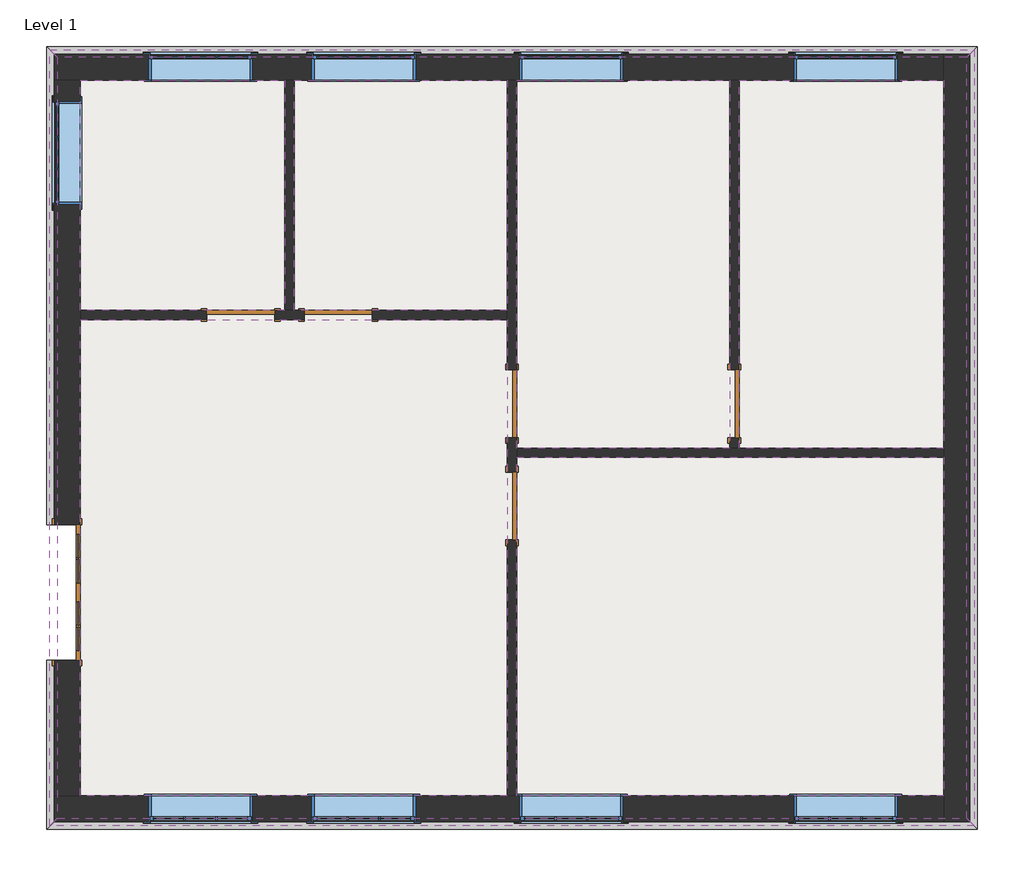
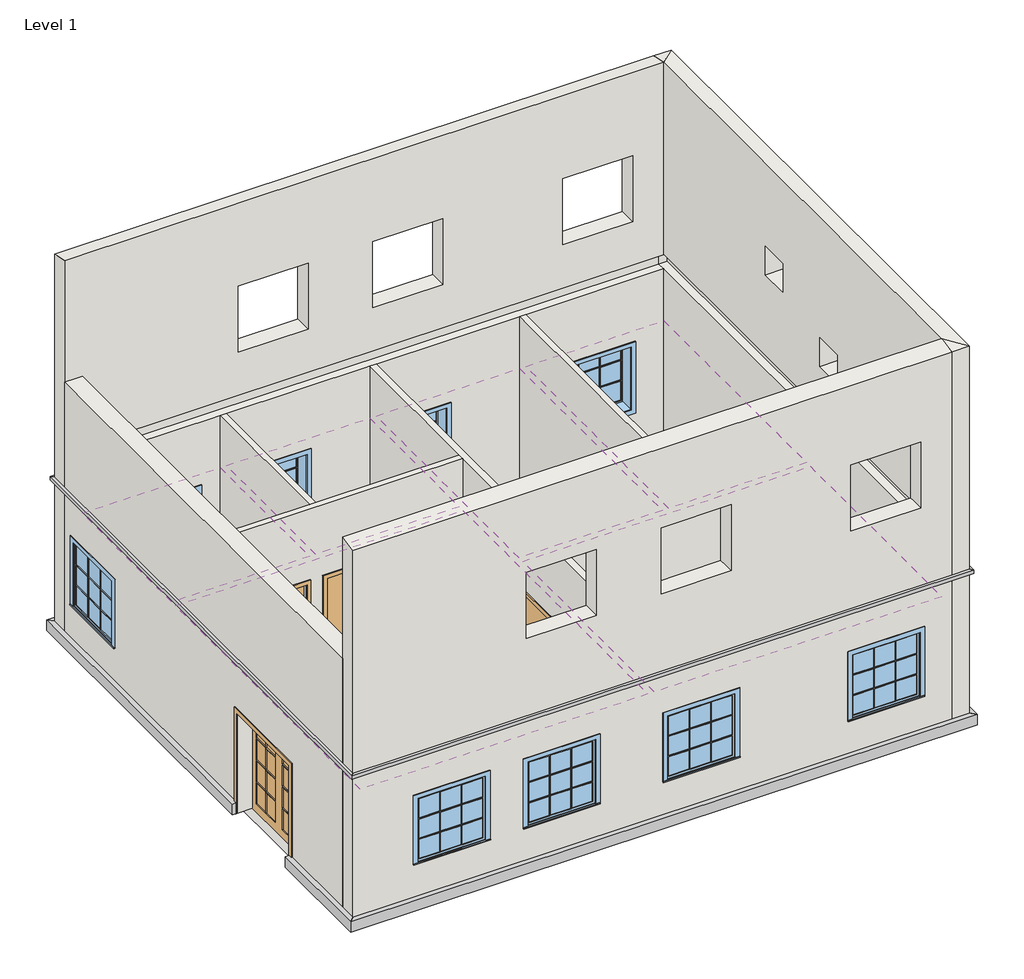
# One storey: 9 walls, 9 windows, 8 proxies, 6 coverings, 6 doors, 1 slab.
"""IFC4 building model written with IfcOpenShell, lengths in millimetres."""

from ifc_helpers import new_model, si_unit, frame, origin, origin_with_axes, place, context, project, spatial, polyline, outline, extrude, faceted_brep, transform, mapped, element, save
from components import m_double_glass_2_1830_x_2134mm_ef281dce, m_single_flush_0915_x_2134mm_4d29c50b, m_single_flush_0915_x_2134mm_d59d34e6, m_casement_3x3_with_trim_1100_x_1400_df31fcd5

model = new_model("IFC4")

# Units and contexts
model_context = context("Model", 3, world=origin())
ifc_project = project(units=[si_unit("LENGTHUNIT", "METRE", prefix="MILLI")], contexts=[model_context])

# Site, building, storey
site = spatial("IfcSite", under=ifc_project)
building = spatial("IfcBuilding", under=site)
storey = spatial("IfcBuildingStorey", under=building, Name="Level 1", Elevation=0.0)

# Proxies
placement = place(None, origin())
element("IfcBuildingElementProxy", 1, Name="Reveals", at=placement, inside=storey, context=model_context, shape_type="SweptSolid", body=[
    extrude(outline(polyline([(6466.2833777, -5538.6390937), (6568.7833777, -5641.1390937), (-5896.2166223, -5641.1390937), (-5793.7166223, -5538.6390937), (6466.2833777, -5538.6390937)])), frame((0.0, 0.0, 3200.0), z_axis=(0.0, 0.0, 1.0), x_axis=(1.0, 0.0, 0.0)), (0.0, 0.0, 1.0), 75.0),
])
element("IfcBuildingElementProxy", 2, Name="Wall Sweeps", at=placement, inside=storey, context=model_context, shape_type="Brep", body=[
    faceted_brep([(6613.7833777, -5686.1390937, 225.0), (6613.7833777, -5686.1390937, 0.0), (6511.2833777, -5583.6390937, 0.0), (6511.2833777, -5583.6390937, 225.0), (-5941.2166223, -5686.1390937, 225.0), (-5838.7166223, -5583.6390937, 225.0), (-5838.7166223, -5583.6390937, 0.0), (-5941.2166223, -5686.1390937, 0.0), (6161.2833777, -5583.6390937, 0.0)], [[[0, 1, 2, 3]], [[4, 5, 6, 7]], [[1, 0, 4, 7]], [[2, 1, 7, 6, 8]], [[3, 2, 8, 6, 5]], [[0, 3, 5, 4]]]),
])
element("IfcBuildingElementProxy", 3, Name="Reveals", at=placement, inside=storey, context=model_context, shape_type="SweptSolid", body=[
    extrude(outline(polyline([(-5793.7166223, 4721.3609063), (-5896.2166223, 4823.8609063), (6568.7833777, 4823.8609063), (6466.2833777, 4721.3609063), (-5793.7166223, 4721.3609063)])), frame((0.0, 0.0, 3200.0), z_axis=(0.0, 0.0, 1.0), x_axis=(1.0, 0.0, 0.0)), (0.0, 0.0, 1.0), 75.0),
])
element("IfcBuildingElementProxy", 4, Name="Wall Sweeps", at=placement, inside=storey, context=model_context, shape_type="Brep", body=[
    faceted_brep([(-5941.2166223, 4868.8609063, 225.0), (-5941.2166223, 4868.8609063, 0.0), (-5838.7166223, 4766.3609063, 0.0), (-5838.7166223, 4766.3609063, 225.0), (6613.7833777, 4868.8609063, 225.0), (6511.2833777, 4766.3609063, 225.0), (6511.2833777, 4766.3609063, 0.0), (6613.7833777, 4868.8609063, 0.0), (6161.2833777, 4766.3609063, 0.0)], [[[0, 1, 2, 3]], [[4, 5, 6, 7]], [[1, 0, 4, 7]], [[2, 1, 7, 6, 8]], [[3, 2, 8, 6, 5]], [[0, 3, 5, 4]]]),
])
element("IfcBuildingElementProxy", 5, Name="Reveals", at=placement, inside=storey, context=model_context, shape_type="SweptSolid", body=[
    extrude(outline(polyline([(-5793.7166223, -5538.6390937), (-5896.2166223, -5641.1390937), (-5896.2166223, 4823.8609063), (-5793.7166223, 4721.3609063), (-5793.7166223, -5538.6390937)])), frame((0.0, 0.0, 3200.0), z_axis=(0.0, 0.0, 1.0), x_axis=(1.0, 0.0, 0.0)), (0.0, 0.0, 1.0), 75.0),
])
element("IfcBuildingElementProxy", 6, Name="Wall Sweeps", at=placement, inside=storey, context=model_context, shape_type="Brep", body=[
    faceted_brep([(-5941.2166223, -5686.1390937, 225.0), (-5941.2166223, -5686.1390937, 0.0), (-5838.7166223, -5583.6390937, 0.0), (-5838.7166223, -5583.6390937, 225.0), (-5941.2166223, -3408.6390937, 225.0), (-5838.7166223, -3408.6390937, 225.0), (-5838.7166223, -3408.6390937, 0.0), (-5941.2166223, -3408.6390937, 0.0), (-5838.7166223, -5233.6390937, 0.0)], [[[0, 1, 2, 3]], [[4, 5, 6, 7]], [[1, 0, 4, 7]], [[2, 1, 7, 6, 8]], [[3, 2, 8, 6, 5]], [[0, 3, 5, 4]]]),
    faceted_brep([(-5941.2166223, -1578.6390937, 225.0), (-5941.2166223, -1578.6390937, 0.0), (-5838.7166223, -1578.6390937, 0.0), (-5838.7166223, -1578.6390937, 225.0), (-5941.2166223, 4868.8609063, 225.0), (-5838.7166223, 4766.3609063, 225.0), (-5838.7166223, 4766.3609063, 0.0), (-5941.2166223, 4868.8609063, 0.0), (-5838.7166223, 4416.3609063, 0.0)], [[[0, 1, 2, 3]], [[4, 5, 6, 7]], [[1, 0, 4, 7]], [[2, 1, 7, 6, 8]], [[3, 2, 8, 6, 5]], [[0, 3, 5, 4]]]),
])
element("IfcBuildingElementProxy", 7, Name="Reveals", at=placement, inside=storey, context=model_context, shape_type="SweptSolid", body=[
    extrude(outline(polyline([(6466.2833777, 4721.3609063), (6568.7833777, 4823.8609063), (6568.7833777, -5641.1390937), (6466.2833777, -5538.6390937), (6466.2833777, 4721.3609063)])), frame((0.0, 0.0, 3200.0), z_axis=(0.0, 0.0, 1.0), x_axis=(1.0, 0.0, 0.0)), (0.0, 0.0, 1.0), 75.0),
])
element("IfcBuildingElementProxy", 8, Name="Wall Sweeps", at=placement, inside=storey, context=model_context, shape_type="SweptSolid", body=[
    extrude(outline(polyline([(6511.2833777, 4766.3609063), (6613.7833777, 4868.8609063), (6613.7833777, -5686.1390937), (6511.2833777, -5583.6390937), (6511.2833777, 4766.3609063)])), origin_with_axes(), (0.0, 0.0, 1.0), 225.0),
])

# Coverings
element("IfcCovering", 9, ObjectType="600 x 1200mm Grid", at=placement, inside=storey, context=model_context, shape_type="SweptSolid", body=[
    extrude(outline(polyline([(-5488.7166223, -5233.6390937), (-5488.7166223, 1185.728172), (274.2833777, 1185.728172), (274.2833777, -5233.6390937), (-5488.7166223, -5233.6390937)])), frame((0.0, 0.0, 2600.0), z_axis=(0.0, 0.0, 1.0), x_axis=(1.0, 0.0, 0.0)), (0.0, 0.0, 1.0), 52.0),
])
element("IfcCovering", 10, ObjectType="600 x 1200mm Grid", at=placement, inside=storey, context=model_context, shape_type="SweptSolid", body=[
    extrude(outline(polyline([(-5488.7166223, 4416.3609063), (-2725.7166223, 4416.3609063), (-2725.7166223, 1309.728172), (-5488.7166223, 1309.728172), (-5488.7166223, 4416.3609063)])), frame((0.0, 0.0, 2600.0), z_axis=(0.0, 0.0, 1.0), x_axis=(1.0, 0.0, 0.0)), (0.0, 0.0, 1.0), 52.0),
])
element("IfcCovering", 11, ObjectType="600 x 1200mm Grid", at=placement, inside=storey, context=model_context, shape_type="SweptSolid", body=[
    extrude(outline(polyline([(398.2833777, -546.6390937), (398.2833777, 4416.3609063), (3274.2833777, 4416.3609063), (3274.2833777, -546.6390937), (398.2833777, -546.6390937)])), frame((0.0, 0.0, 2600.0), z_axis=(0.0, 0.0, 1.0), x_axis=(1.0, 0.0, 0.0)), (0.0, 0.0, 1.0), 52.0),
])
element("IfcCovering", 12, ObjectType="600 x 1200mm Grid", at=placement, inside=storey, context=model_context, shape_type="SweptSolid", body=[
    extrude(outline(polyline([(-2601.7166223, 4416.3609063), (274.2833777, 4416.3609063), (274.2833777, 1309.728172), (-2601.7166223, 1309.728172), (-2601.7166223, 4416.3609063)])), frame((0.0, 0.0, 2600.0), z_axis=(0.0, 0.0, 1.0), x_axis=(1.0, 0.0, 0.0)), (0.0, 0.0, 1.0), 52.0),
])
element("IfcCovering", 13, ObjectType="600 x 1200mm Grid", at=placement, inside=storey, context=model_context, shape_type="SweptSolid", body=[
    extrude(outline(polyline([(3398.2833777, 4416.3609063), (6161.2833777, 4416.3609063), (6161.2833777, -546.6390937), (3398.2833777, -546.6390937), (3398.2833777, 4416.3609063)])), frame((0.0, 0.0, 2600.0), z_axis=(0.0, 0.0, 1.0), x_axis=(1.0, 0.0, 0.0)), (0.0, 0.0, 1.0), 52.0),
])
element("IfcCovering", 14, ObjectType="600 x 1200mm Grid", at=placement, inside=storey, context=model_context, shape_type="SweptSolid", body=[
    extrude(outline(polyline([(6161.2833777, -5233.6390937), (398.2833777, -5233.6390937), (398.2833777, -670.6390937), (6161.2833777, -670.6390937), (6161.2833777, -5233.6390937)])), frame((0.0, 0.0, 2600.0), z_axis=(0.0, 0.0, 1.0), x_axis=(1.0, 0.0, 0.0)), (0.0, 0.0, 1.0), 52.0),
])

# Doors
m_double_glass_2_1830_x_2134mm_shape = m_double_glass_2_1830_x_2134mm_ef281dce(model_context)
element("IfcDoor", 15, ObjectType="M_Double-Glass 2 : 1830 x 2134mm", at=placement, inside=storey, context=model_context, shape_type="MappedRepresentation", body=[
    mapped(m_double_glass_2_1830_x_2134mm_shape, transform((-5663.7166223, -2493.6390937, 0.0), x_axis=(0.0, -1.0, 0.0), y_axis=(1.0, 0.0, 0.0), z_axis=(0.0, 0.0, 1.0))),
])
m_single_flush_0915_x_2134mm_shape = m_single_flush_0915_x_2134mm_4d29c50b(model_context)
element("IfcDoor", 16, ObjectType="M_Single-Flush : 0915 x 2134mm", at=placement, inside=storey, context=model_context, shape_type="MappedRepresentation", body=[
    mapped(m_single_flush_0915_x_2134mm_shape, transform((336.2833777, -1328.1390937, 0.0), x_axis=(0.0, 1.0, 0.0), y_axis=(-1.0, 0.0, 0.0), z_axis=(0.0, 0.0, 1.0))),
])
element("IfcDoor", 17, ObjectType="M_Single-Flush : 0915 x 2134mm", at=placement, inside=storey, context=model_context, shape_type="MappedRepresentation", body=[
    mapped(m_single_flush_0915_x_2134mm_shape, transform((-2006.2166223, 1247.728172, 0.0), x_axis=(-1.0, 0.0, 0.0), y_axis=(0.0, -1.0, 0.0), z_axis=(0.0, 0.0, 1.0))),
])
m_single_flush_0915_x_2134mm_2_shape = m_single_flush_0915_x_2134mm_d59d34e6(model_context)
element("IfcDoor", 18, ObjectType="M_Single-Flush : 0915 x 2134mm", at=placement, inside=storey, context=model_context, shape_type="MappedRepresentation", body=[
    mapped(m_single_flush_0915_x_2134mm_2_shape, transform((336.2833777, 48.8609063, 0.0), x_axis=(0.0, -1.0, 0.0), y_axis=(1.0, 0.0, 0.0), z_axis=(0.0, 0.0, 1.0))),
])
element("IfcDoor", 19, ObjectType="M_Single-Flush : 0915 x 2134mm", at=placement, inside=storey, context=model_context, shape_type="MappedRepresentation", body=[
    mapped(m_single_flush_0915_x_2134mm_2_shape, transform((3336.2833777, 48.8609063, 0.0), x_axis=(0.0, -1.0, 0.0), y_axis=(1.0, 0.0, 0.0), z_axis=(0.0, 0.0, 1.0))),
])
element("IfcDoor", 20, ObjectType="M_Single-Flush : 0915 x 2134mm", at=placement, inside=storey, context=model_context, shape_type="MappedRepresentation", body=[
    mapped(m_single_flush_0915_x_2134mm_2_shape, transform((-3321.2166223, 1247.728172, 0.0), x_axis=(1.0, 0.0, 0.0), y_axis=(0.0, 1.0, 0.0), z_axis=(0.0, 0.0, 1.0))),
])

# Slab
element("IfcSlab", 21, ObjectType="Generic 300mm", at=placement, inside=storey, context=model_context, shape_type="SweptSolid", body=[
    extrude(outline(polyline([(-5501.7166223, 4429.3609063), (6174.2833777, 4429.3609063), (6174.2833777, -5246.6390937), (-5501.7166223, -5246.6390937), (-5501.7166223, 4429.3609063)])), frame((0.0, 0.0, -300.0), z_axis=(0.0, 0.0, 1.0), x_axis=(1.0, 0.0, 0.0)), (0.0, 0.0, 1.0), 300.0),
])

# Walls
element("IfcWall", 22, ObjectType="Exterior-Brick on Mtl. Stud with Base", at=placement, inside=storey, context=model_context, shape_type="Brep", body=[
    faceted_brep([(-5838.7166223, 4416.3609063, 0.0), (-5488.7166223, 4416.3609063, 0.0), (-2725.7166223, 4416.3609063, 0.0), (-2601.7166223, 4416.3609063, 0.0), (274.2833777, 4416.3609063, 0.0), (398.2833777, 4416.3609063, 0.0), (3274.2833777, 4416.3609063, 0.0), (3398.2833777, 4416.3609063, 0.0), (6161.2833777, 4416.3609063, 0.0), (6161.2833777, 4416.3609063, 3700.0), (3398.2833777, 4416.3609063, 3700.0), (3274.2833777, 4416.3609063, 3700.0), (398.2833777, 4416.3609063, 3700.0), (274.2833777, 4416.3609063, 3700.0), (-2601.7166223, 4416.3609063, 3700.0), (-2725.7166223, 4416.3609063, 3700.0), (-5488.7166223, 4416.3609063, 3700.0), (-5653.7166223, 4416.3609063, 3700.0), (-5653.7166223, 4416.3609063, 4000.0), (-5488.7166223, 4416.3609063, 4000.0), (-807.960681, 4416.3609063, 4000.0), (-683.960681, 4416.3609063, 4000.0), (1987.2833777, 4416.3609063, 4000.0), (2111.2833777, 4416.3609063, 4000.0), (6161.2833777, 4416.3609063, 4000.0), (6161.2833777, 4416.3609063, 8074.3947966), (-5838.7166223, 4416.3609063, 8074.3947966), (-5838.7166223, 4416.3609063, 5500.0), (-5838.7166223, 4416.3609063, 3275.0), (-5793.7166223, 4416.3609063, 3275.0), (-5793.7166223, 4416.3609063, 3200.0), (-5838.7166223, 4416.3609063, 3200.0), (-5838.7166223, 4416.3609063, 225.0), (-3163.7166223, 4416.3609063, 2315.0), (-3163.7166223, 4416.3609063, 915.0), (-4563.7166223, 4416.3609063, 915.0), (-4563.7166223, 4416.3609063, 2315.0), (-963.7166223, 4416.3609063, 2315.0), (-963.7166223, 4416.3609063, 915.0), (-2363.7166223, 4416.3609063, 915.0), (-2363.7166223, 4416.3609063, 2315.0), (1836.2833777, 4416.3609063, 2315.0), (1836.2833777, 4416.3609063, 915.0), (436.2833777, 4416.3609063, 915.0), (436.2833777, 4416.3609063, 2315.0), (5536.2833777, 4416.3609063, 2315.0), (5536.2833777, 4416.3609063, 915.0), (4136.2833777, 4416.3609063, 915.0), (4136.2833777, 4416.3609063, 2315.0), (-963.7166223, 4416.3609063, 6315.0), (-963.7166223, 4416.3609063, 4915.0), (-2363.7166223, 4416.3609063, 4915.0), (-2363.7166223, 4416.3609063, 6315.0), (1736.2833777, 4416.3609063, 6315.0), (1736.2833777, 4416.3609063, 4915.0), (336.2833777, 4416.3609063, 4915.0), (336.2833777, 4416.3609063, 6315.0), (5536.2833777, 4416.3609063, 6315.0), (5536.2833777, 4416.3609063, 4915.0), (4136.2833777, 4416.3609063, 4915.0), (4136.2833777, 4416.3609063, 6315.0), (6161.2833777, 4766.3609063, 0.0), (-5838.7166223, 4766.3609063, 0.0), (-5838.7166223, 4766.3609063, 225.0), (-5838.7166223, 4766.3609063, 3200.0), (6161.2833777, 4766.3609063, 3200.0), (6161.2833777, 4766.3609063, 225.0), (-3163.7166223, 4766.3609063, 915.0), (-3163.7166223, 4766.3609063, 2315.0), (-4563.7166223, 4766.3609063, 2315.0), (-4563.7166223, 4766.3609063, 915.0), (-963.7166223, 4766.3609063, 915.0), (-963.7166223, 4766.3609063, 2315.0), (-2363.7166223, 4766.3609063, 2315.0), (-2363.7166223, 4766.3609063, 915.0), (1836.2833777, 4766.3609063, 915.0), (1836.2833777, 4766.3609063, 2315.0), (436.2833777, 4766.3609063, 2315.0), (436.2833777, 4766.3609063, 915.0), (5536.2833777, 4766.3609063, 915.0), (5536.2833777, 4766.3609063, 2315.0), (4136.2833777, 4766.3609063, 2315.0), (4136.2833777, 4766.3609063, 915.0), (-5838.7166223, 4766.3609063, 8000.0), (6161.2833777, 4766.3609063, 8000.0), (6161.2833777, 4766.3609063, 3275.0), (-5838.7166223, 4766.3609063, 3275.0), (-963.7166223, 4766.3609063, 4915.0), (-963.7166223, 4766.3609063, 6315.0), (-2363.7166223, 4766.3609063, 6315.0), (-2363.7166223, 4766.3609063, 4915.0), (1736.2833777, 4766.3609063, 4915.0), (1736.2833777, 4766.3609063, 6315.0), (336.2833777, 4766.3609063, 6315.0), (336.2833777, 4766.3609063, 4915.0), (5536.2833777, 4766.3609063, 4915.0), (5536.2833777, 4766.3609063, 6315.0), (4136.2833777, 4766.3609063, 6315.0), (4136.2833777, 4766.3609063, 4915.0), (6161.2833777, 4721.3609063, 3200.0), (6161.2833777, 4721.3609063, 3275.0), (6161.2833777, 4581.3609063, 4000.0), (6161.2833777, 4581.3609063, 3700.0), (-5653.7166223, 4581.3609063, 3700.0), (-5653.7166223, 4581.3609063, 4000.0), (-5793.7166223, 4721.3609063, 3275.0), (-5793.7166223, 4721.3609063, 3200.0)], [[[0, 1, 2, 3, 4, 5, 6, 7, 8, 9, 10, 11, 12, 13, 14, 15, 16, 17, 18, 19, 20, 21, 22, 23, 24, 25, 26, 27, 28, 29, 30, 31, 32], [33, 34, 35, 36], [37, 38, 39, 40], [41, 42, 43, 44], [45, 46, 47, 48], [49, 50, 51, 52], [53, 54, 55, 56], [57, 58, 59, 60]], [[61, 62, 63, 64, 65, 66], [67, 68, 69, 70], [71, 72, 73, 74], [75, 76, 77, 78], [79, 80, 81, 82]], [[83, 84, 85, 86], [87, 88, 89, 90], [91, 92, 93, 94], [95, 96, 97, 98]], [[8, 7, 6, 5, 4, 3, 2, 1, 0, 62, 61]], [[62, 0, 32, 31, 64, 63]], [[26, 83, 86, 28, 27]], [[8, 61, 66, 65, 99, 100, 85, 84, 25, 24, 101, 102, 9]], [[26, 25, 84, 83]], [[34, 33, 68, 67]], [[35, 34, 67, 70]], [[36, 35, 70, 69]], [[33, 36, 69, 68]], [[38, 37, 72, 71]], [[39, 38, 71, 74]], [[40, 39, 74, 73]], [[37, 40, 73, 72]], [[42, 41, 76, 75]], [[43, 42, 75, 78]], [[44, 43, 78, 77]], [[41, 44, 77, 76]], [[46, 45, 80, 79]], [[47, 46, 79, 82]], [[48, 47, 82, 81]], [[45, 48, 81, 80]], [[50, 49, 88, 87]], [[51, 50, 87, 90]], [[52, 51, 90, 89]], [[49, 52, 89, 88]], [[54, 53, 92, 91]], [[55, 54, 91, 94]], [[56, 55, 94, 93]], [[53, 56, 93, 92]], [[58, 57, 96, 95]], [[59, 58, 95, 98]], [[60, 59, 98, 97]], [[57, 60, 97, 96]], [[103, 17, 16, 15, 14, 13, 12, 11, 10, 9, 102]], [[104, 101, 24, 23, 22, 21, 20, 19, 18]], [[104, 103, 102, 101]], [[103, 104, 18, 17]], [[100, 105, 29, 28, 86, 85]], [[30, 106, 99, 65, 64, 31]], [[105, 106, 30, 29]], [[106, 105, 100, 99]]]),
])
element("IfcWall", 23, ObjectType="Exterior-Brick on Mtl. Stud with Base", at=placement, inside=storey, context=model_context, shape_type="Brep", body=[
    faceted_brep([(-5488.7166223, 4416.3609063, 5500.0), (-5488.7166223, -5233.6390937, 5500.0), (-5488.7166223, -5233.6390937, 4000.0), (-5488.7166223, 4416.3609063, 4000.0), (-5488.7166223, -3408.6390937, 0.0), (-5488.7166223, -3408.6390937, 2134.0), (-5488.7166223, -1578.6390937, 2134.0), (-5488.7166223, -1578.6390937, 0.0), (-5488.7166223, 1185.728172, 0.0), (-5488.7166223, 1309.728172, 0.0), (-5488.7166223, 4416.3609063, 0.0), (-5488.7166223, 4416.3609063, 3700.0), (-5488.7166223, 1309.728172, 3700.0), (-5488.7166223, 1185.728172, 3700.0), (-5488.7166223, -5233.6390937, 3700.0), (-5488.7166223, -5233.6390937, 0.0), (-5488.7166223, 4133.8609063, 2315.0), (-5488.7166223, 4133.8609063, 915.0), (-5488.7166223, 2733.8609063, 915.0), (-5488.7166223, 2733.8609063, 2315.0), (-5838.7166223, -5233.6390937, 5500.0), (-5838.7166223, 4416.3609063, 5500.0), (-5838.7166223, 4416.3609063, 3275.0), (-5838.7166223, -5233.6390937, 3275.0), (-5838.7166223, -1578.6390937, 2134.0), (-5838.7166223, -3408.6390937, 2134.0), (-5838.7166223, -3408.6390937, 225.0), (-5838.7166223, -3408.6390937, 0.0), (-5838.7166223, -5233.6390937, 0.0), (-5838.7166223, -5233.6390937, 225.0), (-5838.7166223, -5233.6390937, 3200.0), (-5838.7166223, 4416.3609063, 3200.0), (-5838.7166223, 4416.3609063, 225.0), (-5838.7166223, 4416.3609063, 0.0), (-5838.7166223, -1578.6390937, 0.0), (-5838.7166223, -1578.6390937, 225.0), (-5838.7166223, 4133.8609063, 915.0), (-5838.7166223, 4133.8609063, 2315.0), (-5838.7166223, 2733.8609063, 2315.0), (-5838.7166223, 2733.8609063, 915.0), (-5793.7166223, 4416.3609063, 3200.0), (-5793.7166223, 4416.3609063, 3275.0), (-5653.7166223, 4416.3609063, 4000.0), (-5653.7166223, 4416.3609063, 3700.0), (-5793.7166223, -5233.6390937, 3275.0), (-5793.7166223, -5233.6390937, 3200.0), (-5653.7166223, -5233.6390937, 3700.0), (-5653.7166223, -5233.6390937, 4000.0)], [[[0, 1, 2, 3]], [[4, 5, 6, 7, 8, 9, 10, 11, 12, 13, 14, 15], [16, 17, 18, 19]], [[20, 21, 22, 23]], [[24, 25, 26, 27, 28, 29, 30, 31, 32, 33, 34, 35], [36, 37, 38, 39]], [[33, 10, 9, 8, 7, 34]], [[15, 28, 27, 4]], [[1, 0, 21, 20]], [[10, 33, 32, 31, 40, 41, 22, 21, 0, 3, 42, 43, 11]], [[1, 20, 23, 44, 45, 30, 29, 28, 15, 14, 46, 47, 2]], [[5, 4, 27, 26, 25]], [[6, 5, 25, 24]], [[7, 6, 24, 35, 34]], [[17, 16, 37, 36]], [[18, 17, 36, 39]], [[19, 18, 39, 38]], [[16, 19, 38, 37]], [[43, 46, 14, 13, 12, 11]], [[47, 42, 3, 2]], [[46, 43, 42, 47]], [[41, 44, 23, 22]], [[45, 40, 31, 30]], [[44, 41, 40, 45]]]),
])
element("IfcWall", 24, ObjectType="Exterior-Brick on Mtl. Stud with Base", at=placement, inside=storey, context=model_context, shape_type="Brep", body=[
    faceted_brep([(6161.2833777, -5233.6390937, 0.0), (398.2833777, -5233.6390937, 0.0), (274.2833777, -5233.6390937, 0.0), (-5488.7166223, -5233.6390937, 0.0), (-5838.7166223, -5233.6390937, 0.0), (-5838.7166223, -5233.6390937, 225.0), (-5838.7166223, -5233.6390937, 3200.0), (-5793.7166223, -5233.6390937, 3200.0), (-5793.7166223, -5233.6390937, 3275.0), (-5838.7166223, -5233.6390937, 3275.0), (-5838.7166223, -5233.6390937, 5500.0), (-5838.7166223, -5233.6390937, 8074.3947966), (6161.2833777, -5233.6390937, 8074.3947966), (6161.2833777, -5233.6390937, 4000.0), (2111.2833777, -5233.6390937, 4000.0), (1987.2833777, -5233.6390937, 4000.0), (-683.960681, -5233.6390937, 4000.0), (-807.960681, -5233.6390937, 4000.0), (-5488.7166223, -5233.6390937, 4000.0), (-5653.7166223, -5233.6390937, 4000.0), (-5653.7166223, -5233.6390937, 3700.0), (-5488.7166223, -5233.6390937, 3700.0), (274.2833777, -5233.6390937, 3700.0), (398.2833777, -5233.6390937, 3700.0), (6161.2833777, -5233.6390937, 3700.0), (4136.2833777, -5233.6390937, 2315.0), (4136.2833777, -5233.6390937, 915.0), (5536.2833777, -5233.6390937, 915.0), (5536.2833777, -5233.6390937, 2315.0), (436.2833777, -5233.6390937, 2315.0), (436.2833777, -5233.6390937, 915.0), (1836.2833777, -5233.6390937, 915.0), (1836.2833777, -5233.6390937, 2315.0), (-2363.7166223, -5233.6390937, 2315.0), (-2363.7166223, -5233.6390937, 915.0), (-963.7166223, -5233.6390937, 915.0), (-963.7166223, -5233.6390937, 2315.0), (-4563.7166223, -5233.6390937, 2315.0), (-4563.7166223, -5233.6390937, 915.0), (-3163.7166223, -5233.6390937, 915.0), (-3163.7166223, -5233.6390937, 2315.0), (4136.2833777, -5233.6390937, 6315.0), (4136.2833777, -5233.6390937, 4915.0), (5536.2833777, -5233.6390937, 4915.0), (5536.2833777, -5233.6390937, 6315.0), (336.2833777, -5233.6390937, 6315.0), (336.2833777, -5233.6390937, 4915.0), (1736.2833777, -5233.6390937, 4915.0), (1736.2833777, -5233.6390937, 6315.0), (-2363.7166223, -5233.6390937, 6315.0), (-2363.7166223, -5233.6390937, 4915.0), (-963.7166223, -5233.6390937, 4915.0), (-963.7166223, -5233.6390937, 6315.0), (-5838.7166223, -5583.6390937, 0.0), (6161.2833777, -5583.6390937, 0.0), (6161.2833777, -5583.6390937, 225.0), (6161.2833777, -5583.6390937, 3200.0), (-5838.7166223, -5583.6390937, 3200.0), (-5838.7166223, -5583.6390937, 225.0), (4136.2833777, -5583.6390937, 915.0), (4136.2833777, -5583.6390937, 2315.0), (5536.2833777, -5583.6390937, 2315.0), (5536.2833777, -5583.6390937, 915.0), (436.2833777, -5583.6390937, 915.0), (436.2833777, -5583.6390937, 2315.0), (1836.2833777, -5583.6390937, 2315.0), (1836.2833777, -5583.6390937, 915.0), (-2363.7166223, -5583.6390937, 915.0), (-2363.7166223, -5583.6390937, 2315.0), (-963.7166223, -5583.6390937, 2315.0), (-963.7166223, -5583.6390937, 915.0), (-4563.7166223, -5583.6390937, 915.0), (-4563.7166223, -5583.6390937, 2315.0), (-3163.7166223, -5583.6390937, 2315.0), (-3163.7166223, -5583.6390937, 915.0), (6161.2833777, -5583.6390937, 8000.0), (-5838.7166223, -5583.6390937, 8000.0), (-5838.7166223, -5583.6390937, 3275.0), (6161.2833777, -5583.6390937, 3275.0), (4136.2833777, -5583.6390937, 4915.0), (4136.2833777, -5583.6390937, 6315.0), (5536.2833777, -5583.6390937, 6315.0), (5536.2833777, -5583.6390937, 4915.0), (336.2833777, -5583.6390937, 4915.0), (336.2833777, -5583.6390937, 6315.0), (1736.2833777, -5583.6390937, 6315.0), (1736.2833777, -5583.6390937, 4915.0), (-2363.7166223, -5583.6390937, 4915.0), (-2363.7166223, -5583.6390937, 6315.0), (-963.7166223, -5583.6390937, 6315.0), (-963.7166223, -5583.6390937, 4915.0), (6161.2833777, -5398.6390937, 3700.0), (6161.2833777, -5398.6390937, 4000.0), (6161.2833777, -5538.6390937, 3275.0), (6161.2833777, -5538.6390937, 3200.0), (-5653.7166223, -5398.6390937, 3700.0), (-5653.7166223, -5398.6390937, 4000.0), (-5793.7166223, -5538.6390937, 3275.0), (-5793.7166223, -5538.6390937, 3200.0)], [[[0, 1, 2, 3, 4, 5, 6, 7, 8, 9, 10, 11, 12, 13, 14, 15, 16, 17, 18, 19, 20, 21, 22, 23, 24], [25, 26, 27, 28], [29, 30, 31, 32], [33, 34, 35, 36], [37, 38, 39, 40], [41, 42, 43, 44], [45, 46, 47, 48], [49, 50, 51, 52]], [[53, 54, 55, 56, 57, 58], [59, 60, 61, 62], [63, 64, 65, 66], [67, 68, 69, 70], [71, 72, 73, 74]], [[75, 76, 77, 78], [79, 80, 81, 82], [83, 84, 85, 86], [87, 88, 89, 90]], [[4, 3, 2, 1, 0, 54, 53]], [[4, 53, 58, 57, 6, 5]], [[76, 11, 10, 9, 77]], [[54, 0, 24, 91, 92, 13, 12, 75, 78, 93, 94, 56, 55]], [[12, 11, 76, 75]], [[26, 25, 60, 59]], [[27, 26, 59, 62]], [[28, 27, 62, 61]], [[25, 28, 61, 60]], [[30, 29, 64, 63]], [[31, 30, 63, 66]], [[32, 31, 66, 65]], [[29, 32, 65, 64]], [[34, 33, 68, 67]], [[35, 34, 67, 70]], [[36, 35, 70, 69]], [[33, 36, 69, 68]], [[38, 37, 72, 71]], [[39, 38, 71, 74]], [[40, 39, 74, 73]], [[37, 40, 73, 72]], [[42, 41, 80, 79]], [[43, 42, 79, 82]], [[44, 43, 82, 81]], [[41, 44, 81, 80]], [[46, 45, 84, 83]], [[47, 46, 83, 86]], [[48, 47, 86, 85]], [[45, 48, 85, 84]], [[50, 49, 88, 87]], [[51, 50, 87, 90]], [[52, 51, 90, 89]], [[49, 52, 89, 88]], [[20, 95, 91, 24, 23, 22, 21]], [[92, 96, 19, 18, 17, 16, 15, 14, 13]], [[95, 96, 92, 91]], [[96, 95, 20, 19]], [[8, 97, 93, 78, 77, 9]], [[94, 98, 7, 6, 57, 56]], [[97, 98, 94, 93]], [[98, 97, 8, 7]]]),
])
element("IfcWall", 25, ObjectType="Exterior-Brick on Mtl. Stud with Base", at=placement, inside=storey, context=model_context, shape_type="Brep", body=[
    faceted_brep([(6161.2833777, 4766.3609063, 0.0), (6161.2833777, 4416.3609063, 0.0), (6161.2833777, -546.6390937, 0.0), (6161.2833777, -670.6390937, 0.0), (6161.2833777, -5233.6390937, 0.0), (6161.2833777, -5583.6390937, 0.0), (6161.2833777, -5583.6390937, 225.0), (6161.2833777, -5583.6390937, 3200.0), (6161.2833777, -5538.6390937, 3200.0), (6161.2833777, -5538.6390937, 3275.0), (6161.2833777, -5583.6390937, 3275.0), (6161.2833777, -5583.6390937, 8000.0), (6161.2833777, -5233.6390937, 8074.3947966), (6161.2833777, 4416.3609063, 8074.3947966), (6161.2833777, 4766.3609063, 8000.0), (6161.2833777, 4766.3609063, 3275.0), (6161.2833777, 4721.3609063, 3275.0), (6161.2833777, 4721.3609063, 3200.0), (6161.2833777, 4766.3609063, 3200.0), (6161.2833777, 4766.3609063, 225.0), (6161.2833777, 286.3609063, 6315.0), (6161.2833777, 286.3609063, 5705.0), (6161.2833777, 896.3609063, 5705.0), (6161.2833777, 896.3609063, 6315.0), (6161.2833777, -1613.6390937, 5525.0), (6161.2833777, -1613.6390937, 4915.0), (6161.2833777, -1003.6390937, 4915.0), (6161.2833777, -1003.6390937, 5525.0), (6161.2833777, -5398.6390937, 3700.0), (6161.2833777, -5233.6390937, 3700.0), (6161.2833777, -670.6390937, 3700.0), (6161.2833777, -546.6390937, 3700.0), (6161.2833777, 4416.3609063, 3700.0), (6161.2833777, 4581.3609063, 3700.0), (6161.2833777, 4581.3609063, 4000.0), (6161.2833777, 4416.3609063, 4000.0), (6161.2833777, 1853.3609063, 4000.0), (6161.2833777, 1729.3609063, 4000.0), (6161.2833777, -346.6390937, 4000.0), (6161.2833777, -470.6390937, 4000.0), (6161.2833777, -2546.6390937, 4000.0), (6161.2833777, -2670.6390937, 4000.0), (6161.2833777, -5233.6390937, 4000.0), (6161.2833777, -5398.6390937, 4000.0), (6511.2833777, -5583.6390937, 0.0), (6511.2833777, 4766.3609063, 0.0), (6511.2833777, 4766.3609063, 225.0), (6511.2833777, 4766.3609063, 3200.0), (6511.2833777, -5583.6390937, 3200.0), (6511.2833777, -5583.6390937, 225.0), (6511.2833777, 4766.3609063, 8000.0), (6511.2833777, -5583.6390937, 8000.0), (6511.2833777, -5583.6390937, 3275.0), (6511.2833777, 4766.3609063, 3275.0), (6511.2833777, 286.3609063, 5705.0), (6511.2833777, 286.3609063, 6315.0), (6511.2833777, 896.3609063, 6315.0), (6511.2833777, 896.3609063, 5705.0), (6511.2833777, -1613.6390937, 4915.0), (6511.2833777, -1613.6390937, 5525.0), (6511.2833777, -1003.6390937, 5525.0), (6511.2833777, -1003.6390937, 4915.0), (6326.2833777, -5398.6390937, 3700.0), (6326.2833777, 4581.3609063, 3700.0), (6326.2833777, 4581.3609063, 4000.0), (6326.2833777, -5398.6390937, 4000.0), (6466.2833777, -5538.6390937, 3275.0), (6466.2833777, 4721.3609063, 3275.0), (6466.2833777, 4721.3609063, 3200.0), (6466.2833777, -5538.6390937, 3200.0)], [[[0, 1, 2, 3, 4, 5, 6, 7, 8, 9, 10, 11, 12, 13, 14, 15, 16, 17, 18, 19], [20, 21, 22, 23], [24, 25, 26, 27], [28, 29, 30, 31, 32, 33, 34, 35, 36, 37, 38, 39, 40, 41, 42, 43]], [[44, 45, 46, 47, 48, 49]], [[50, 51, 52, 53], [54, 55, 56, 57], [58, 59, 60, 61]], [[5, 4, 3, 2, 1, 0, 45, 44]], [[14, 50, 53, 15]], [[45, 0, 19, 18, 47, 46]], [[5, 44, 49, 48, 7, 6]], [[51, 11, 10, 52]], [[50, 14, 13]], [[51, 50, 13, 12]], [[11, 51, 12]], [[21, 20, 55, 54]], [[22, 21, 54, 57]], [[23, 22, 57, 56]], [[20, 23, 56, 55]], [[25, 24, 59, 58]], [[26, 25, 58, 61]], [[27, 26, 61, 60]], [[24, 27, 60, 59]], [[62, 63, 33, 32, 31, 30, 29, 28]], [[64, 65, 43, 42, 41, 40, 39, 38, 37, 36, 35, 34]], [[63, 64, 34, 33]], [[63, 62, 65, 64]], [[65, 62, 28, 43]], [[66, 67, 16, 15, 53, 52, 10, 9]], [[68, 69, 8, 7, 48, 47, 18, 17]], [[67, 68, 17, 16]], [[67, 66, 69, 68]], [[69, 66, 9, 8]]]),
])
element("IfcWall", 26, ObjectType="Interior - Blockwork 100", at=placement, inside=storey, context=model_context, shape_type="Brep", body=[
    faceted_brep([(274.2833777, -408.6390937, 2134.0), (274.2833777, -408.6390937, 0.0), (274.2833777, -870.6390937, 0.0), (274.2833777, -870.6390937, 2134.0), (274.2833777, -1785.6390937, 2134.0), (274.2833777, -1785.6390937, 0.0), (274.2833777, -5233.6390937, 0.0), (274.2833777, -5233.6390937, 3700.0), (274.2833777, 1185.728172, 3700.0), (274.2833777, 1309.728172, 3700.0), (274.2833777, 4416.3609063, 3700.0), (274.2833777, 4416.3609063, 0.0), (274.2833777, 1309.728172, 0.0), (274.2833777, 1185.728172, 0.0), (274.2833777, 506.3609063, 0.0), (274.2833777, 506.3609063, 2134.0), (398.2833777, -870.6390937, 0.0), (398.2833777, -670.6390937, 0.0), (398.2833777, -546.6390937, 0.0), (398.2833777, -408.6390937, 0.0), (398.2833777, -408.6390937, 2134.0), (398.2833777, 506.3609063, 2134.0), (398.2833777, 506.3609063, 0.0), (398.2833777, 4416.3609063, 0.0), (398.2833777, 4416.3609063, 3700.0), (398.2833777, -546.6390937, 3700.0), (398.2833777, -670.6390937, 3700.0), (398.2833777, -5233.6390937, 3700.0), (398.2833777, -5233.6390937, 0.0), (398.2833777, -1785.6390937, 0.0), (398.2833777, -1785.6390937, 2134.0), (398.2833777, -870.6390937, 2134.0)], [[[0, 1, 2, 3, 4, 5, 6, 7, 8, 9, 10, 11, 12, 13, 14, 15]], [[16, 17, 18, 19, 20, 21, 22, 23, 24, 25, 26, 27, 28, 29, 30, 31]], [[2, 1, 19, 18, 17, 16]], [[29, 28, 6, 5]], [[14, 13, 12, 11, 23, 22]], [[11, 10, 24, 23]], [[7, 6, 28, 27]], [[10, 9, 8, 7, 27, 26, 25, 24]], [[3, 2, 16, 31]], [[4, 3, 31, 30]], [[5, 4, 30, 29]], [[20, 19, 1, 0]], [[21, 20, 0, 15]], [[22, 21, 15, 14]]]),
])
element("IfcWall", 27, ObjectType="Interior - Blockwork 100", at=placement, inside=storey, context=model_context, shape_type="Brep", body=[
    faceted_brep([(6161.2833777, -546.6390937, 0.0), (3398.2833777, -546.6390937, 0.0), (3274.2833777, -546.6390937, 0.0), (398.2833777, -546.6390937, 0.0), (398.2833777, -546.6390937, 3700.0), (3274.2833777, -546.6390937, 3700.0), (3398.2833777, -546.6390937, 3700.0), (6161.2833777, -546.6390937, 3700.0), (6161.2833777, -670.6390937, 0.0), (6161.2833777, -670.6390937, 3700.0), (398.2833777, -670.6390937, 3700.0), (398.2833777, -670.6390937, 0.0)], [[[0, 1, 2, 3, 4, 5, 6, 7]], [[8, 9, 10, 11]], [[3, 2, 1, 0, 8, 11]], [[0, 7, 9, 8]], [[4, 3, 11, 10]], [[7, 6, 5, 4, 10, 9]]]),
])
element("IfcWall", 28, ObjectType="Interior - Blockwork 100", at=placement, inside=storey, context=model_context, shape_type="SweptSolid", body=[
    extrude(outline(polyline([(-408.6390937, 2134.0), (-408.6390937, 0.0), (-546.6390937, 0.0), (-546.6390937, 3700.0), (4416.3609063, 3700.0), (4416.3609063, 0.0), (506.3609063, 0.0), (506.3609063, 2134.0), (-408.6390937, 2134.0)])), frame((3274.2833777, 0.0, 0.0), z_axis=(1.0, 0.0, 0.0), x_axis=(0.0, 1.0, 0.0)), (0.0, 0.0, 1.0), 124.0),
])
element("IfcWall", 29, ObjectType="Interior - Blockwork 100", at=placement, inside=storey, context=model_context, shape_type="Brep", body=[
    faceted_brep([(-2463.7166223, 1309.728172, 0.0), (-2601.7166223, 1309.728172, 0.0), (-2725.7166223, 1309.728172, 0.0), (-2863.7166223, 1309.728172, 0.0), (-2863.7166223, 1309.728172, 2134.0), (-3778.7166223, 1309.728172, 2134.0), (-3778.7166223, 1309.728172, 0.0), (-5488.7166223, 1309.728172, 0.0), (-5488.7166223, 1309.728172, 3700.0), (-2725.7166223, 1309.728172, 3700.0), (-2601.7166223, 1309.728172, 3700.0), (274.2833777, 1309.728172, 3700.0), (274.2833777, 1309.728172, 0.0), (-1548.7166223, 1309.728172, 0.0), (-1548.7166223, 1309.728172, 2134.0), (-2463.7166223, 1309.728172, 2134.0), (-2863.7166223, 1185.728172, 2134.0), (-2863.7166223, 1185.728172, 0.0), (-2463.7166223, 1185.728172, 0.0), (-2463.7166223, 1185.728172, 2134.0), (-1548.7166223, 1185.728172, 2134.0), (-1548.7166223, 1185.728172, 0.0), (274.2833777, 1185.728172, 0.0), (274.2833777, 1185.728172, 3700.0), (-5488.7166223, 1185.728172, 3700.0), (-5488.7166223, 1185.728172, 0.0), (-3778.7166223, 1185.728172, 0.0), (-3778.7166223, 1185.728172, 2134.0)], [[[0, 1, 2, 3, 4, 5, 6, 7, 8, 9, 10, 11, 12, 13, 14, 15]], [[16, 17, 18, 19, 20, 21, 22, 23, 24, 25, 26, 27]], [[18, 17, 3, 2, 1, 0]], [[13, 12, 22, 21]], [[26, 25, 7, 6]], [[8, 7, 25, 24]], [[12, 11, 23, 22]], [[11, 10, 9, 8, 24, 23]], [[19, 18, 0, 15]], [[20, 19, 15, 14]], [[21, 20, 14, 13]], [[4, 3, 17, 16]], [[5, 4, 16, 27]], [[6, 5, 27, 26]]]),
])
element("IfcWall", 30, ObjectType="Interior - Blockwork 100", at=placement, inside=storey, context=model_context, shape_type="SweptSolid", body=[
    extrude(outline(polyline([(-2601.7166223, 4416.3609063), (-2601.7166223, 1309.728172), (-2725.7166223, 1309.728172), (-2725.7166223, 4416.3609063), (-2601.7166223, 4416.3609063)])), origin_with_axes(), (0.0, 0.0, 1.0), 3700.0),
])

# Windows
m_casement_3x3_with_trim_1100_x_1400_shape = m_casement_3x3_with_trim_1100_x_1400_df31fcd5(model_context)
element("IfcWindow", 31, ObjectType="M_Casement 3x3 with Trim : 1100 x 1400", at=placement, inside=storey, context=model_context, shape_type="MappedRepresentation", body=[
    mapped(m_casement_3x3_with_trim_1100_x_1400_shape, transform((-5663.7166223, 3433.8609063, 0.0), x_axis=(0.0, 1.0, 0.0), y_axis=(-1.0, 0.0, 0.0), z_axis=(0.0, 0.0, 1.0))),
])
element("IfcWindow", 32, ObjectType="M_Casement 3x3 with Trim : 1100 x 1400", at=placement, inside=storey, context=model_context, shape_type="MappedRepresentation", body=[
    mapped(m_casement_3x3_with_trim_1100_x_1400_shape, transform((-3863.7166223, 4591.3609063, 0.0), x_axis=(1.0, 0.0, 0.0), y_axis=(0.0, 1.0, 0.0), z_axis=(0.0, 0.0, 1.0))),
])
element("IfcWindow", 33, ObjectType="M_Casement 3x3 with Trim : 1100 x 1400", at=placement, inside=storey, context=model_context, shape_type="MappedRepresentation", body=[
    mapped(m_casement_3x3_with_trim_1100_x_1400_shape, transform((-1663.7166223, 4591.3609063, 0.0), x_axis=(1.0, 0.0, 0.0), y_axis=(0.0, 1.0, 0.0), z_axis=(0.0, 0.0, 1.0))),
])
element("IfcWindow", 34, ObjectType="M_Casement 3x3 with Trim : 1100 x 1400", at=placement, inside=storey, context=model_context, shape_type="MappedRepresentation", body=[
    mapped(m_casement_3x3_with_trim_1100_x_1400_shape, transform((1136.2833777, 4591.3609063, 0.0), x_axis=(1.0, 0.0, 0.0), y_axis=(0.0, 1.0, 0.0), z_axis=(0.0, 0.0, 1.0))),
])
element("IfcWindow", 35, ObjectType="M_Casement 3x3 with Trim : 1100 x 1400", at=placement, inside=storey, context=model_context, shape_type="MappedRepresentation", body=[
    mapped(m_casement_3x3_with_trim_1100_x_1400_shape, transform((4836.2833777, 4591.3609063, 0.0), x_axis=(1.0, 0.0, 0.0), y_axis=(0.0, 1.0, 0.0), z_axis=(0.0, 0.0, 1.0))),
])
element("IfcWindow", 36, ObjectType="M_Casement 3x3 with Trim : 1100 x 1400", at=placement, inside=storey, context=model_context, shape_type="MappedRepresentation", body=[
    mapped(m_casement_3x3_with_trim_1100_x_1400_shape, transform((4836.2833777, -5408.6390937, 0.0), x_axis=(-1.0, 0.0, 0.0), y_axis=(0.0, -1.0, 0.0), z_axis=(0.0, 0.0, 1.0))),
])
element("IfcWindow", 37, ObjectType="M_Casement 3x3 with Trim : 1100 x 1400", at=placement, inside=storey, context=model_context, shape_type="MappedRepresentation", body=[
    mapped(m_casement_3x3_with_trim_1100_x_1400_shape, transform((1136.2833777, -5408.6390937, 0.0), x_axis=(-1.0, 0.0, 0.0), y_axis=(0.0, -1.0, 0.0), z_axis=(0.0, 0.0, 1.0))),
])
element("IfcWindow", 38, ObjectType="M_Casement 3x3 with Trim : 1100 x 1400", at=placement, inside=storey, context=model_context, shape_type="MappedRepresentation", body=[
    mapped(m_casement_3x3_with_trim_1100_x_1400_shape, transform((-1663.7166223, -5408.6390937, 0.0), x_axis=(-1.0, 0.0, 0.0), y_axis=(0.0, -1.0, 0.0), z_axis=(0.0, 0.0, 1.0))),
])
element("IfcWindow", 39, ObjectType="M_Casement 3x3 with Trim : 1100 x 1400", at=placement, inside=storey, context=model_context, shape_type="MappedRepresentation", body=[
    mapped(m_casement_3x3_with_trim_1100_x_1400_shape, transform((-3863.7166223, -5408.6390937, 0.0), x_axis=(-1.0, 0.0, 0.0), y_axis=(0.0, -1.0, 0.0), z_axis=(0.0, 0.0, 1.0))),
])

save(model, "model.ifc")
